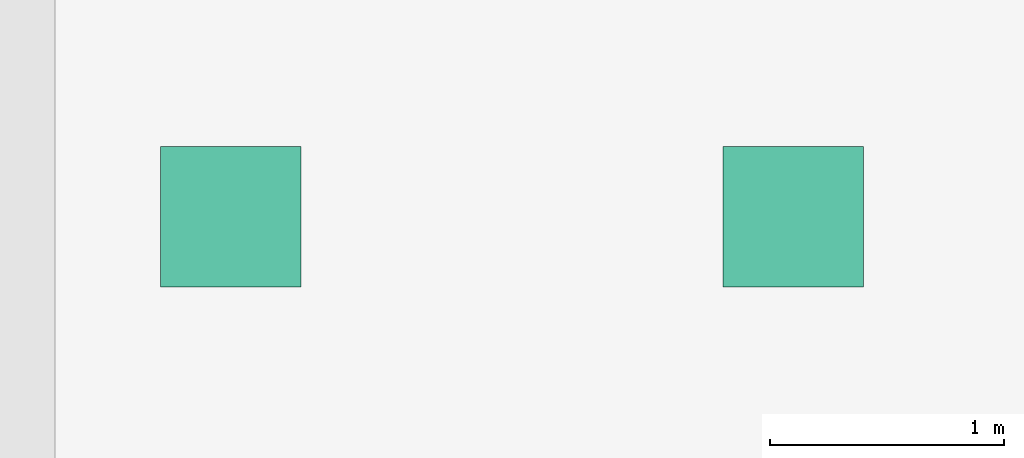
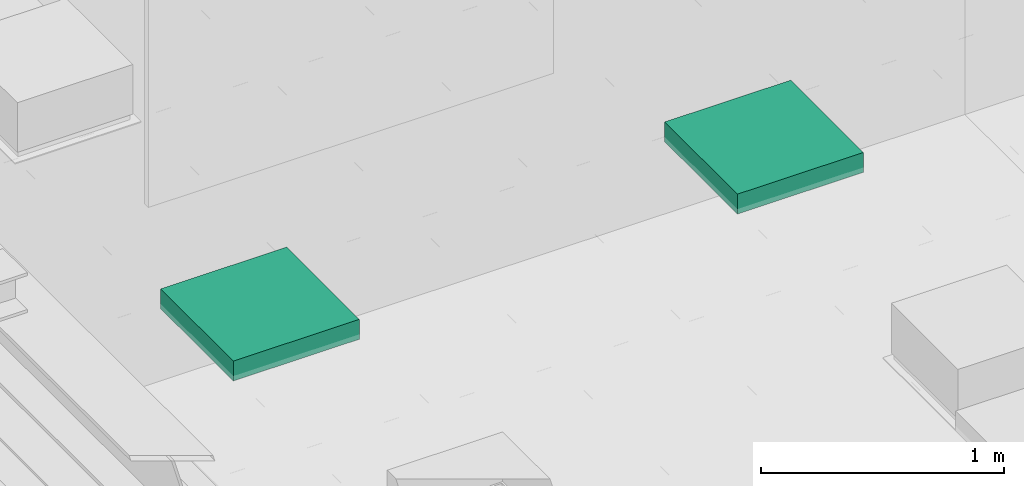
# One storey, part 224 of 347: 2 flow terminals.
"""IFC2X3 building model written with IfcOpenShell, lengths in millimetres."""

from ifc_helpers import new_model, entity, si_unit, converted_unit, derived_unit, money_unit, direction, frame, origin_with_axes, place, context, subcontext, project, spatial, open_shell, faceted_brep, surface_model, source, transform, mapped, type_object, type_shapes, element, save


model = new_model("IFC2X3")

# Units and contexts
model_context = context("Model", 3, precision=0.01, world=origin_with_axes(), true_north=direction((0.0, 1.0)))
plan_context = context("Plan", 3, precision=0.01, world=origin_with_axes(), true_north=direction((0.0, 1.0)))
body_context = subcontext(model_context, "Body", "Model", "MODEL_VIEW")
ifc_project = project(units=[si_unit("LENGTHUNIT", "METRE", prefix="MILLI"), si_unit("AREAUNIT", "SQUARE_METRE"), si_unit("VOLUMEUNIT", "CUBIC_METRE"), converted_unit("PLANEANGLEUNIT", "DEGREE", entity("IfcPlaneAngleMeasure", 0.0174532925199), si_unit("PLANEANGLEUNIT", "RADIAN"), dimensions=[0, 0, 0, 0, 0, 0, 0]), money_unit("EUR"), converted_unit("TIMEUNIT", "Year", entity("IfcTimeMeasure", 31556926.0), si_unit("TIMEUNIT", "SECOND"), dimensions=[0, 0, 1, 0, 0, 0, 0]), si_unit("MASSUNIT", "GRAM", prefix="KILO"), si_unit("THERMODYNAMICTEMPERATUREUNIT", "DEGREE_CELSIUS"), si_unit("LUMINOUSINTENSITYUNIT", "LUMEN"), si_unit("ENERGYUNIT", "JOULE", prefix="MEGA"), derived_unit("THERMALCONDUCTANCEUNIT", [(si_unit("POWERUNIT", "WATT"), 1), (si_unit("LENGTHUNIT", "METRE"), -1), (si_unit("THERMODYNAMICTEMPERATUREUNIT", "KELVIN"), -1)]), derived_unit("SPECIFICHEATCAPACITYUNIT", [(si_unit("ENERGYUNIT", "JOULE"), 1), (si_unit("MASSUNIT", "GRAM", prefix="KILO"), -1), (si_unit("THERMODYNAMICTEMPERATUREUNIT", "KELVIN"), -1)]), derived_unit("MASSDENSITYUNIT", [(si_unit("MASSUNIT", "GRAM", prefix="KILO"), 1), (si_unit("VOLUMEUNIT", "CUBIC_METRE"), -1)])], contexts=[model_context, plan_context])

# Site, building, storey
site_placement = place(None, origin_with_axes())
site = spatial("IfcSite", under=ifc_project, at=site_placement, Name="Site", CompositionType="ELEMENT")
building_placement = place(site_placement, origin_with_axes())
building = spatial("IfcBuilding", under=site, at=building_placement, Name="Naam gebouw", CompositionType="ELEMENT")
storey_placement = place(building_placement, origin_with_axes())
storey = spatial("IfcBuildingStorey", under=building, at=storey_placement, Name="begane grond", CompositionType="ELEMENT", Elevation=0.0)

# Flow terminals
lamp_type = type_object("IfcLampType", Name="TL plafond 25", PredefinedType="NOTDEFINED")
shared_shape = source(origin_with_axes(), body_context, "Body", "SurfaceModel", [
    faceted_brep([(0.0, 0.0, -100.0), (600.0, 0.0, -100.0), (600.0, 0.0, 0.0), (0.0, 0.0, 0.0), (0.0, 600.0, -100.0), (600.0, 600.0, -100.0), (40.0, 40.0, -100.0), (560.0, 40.0, -100.0), (560.0, 560.0, -100.0), (40.0, 560.0, -100.0), (600.0, 600.0, 0.0), (0.0, 600.0, 0.0), (40.0, 40.0, 0.0), (40.0, 560.0, 0.0), (560.0, 560.0, 0.0), (560.0, 40.0, 0.0)], [[[0, 1, 2, 3]], [[0, 4, 5, 1], [6, 7, 8, 9]], [[1, 5, 10, 2]], [[3, 2, 10, 11], [12, 13, 14, 15]], [[4, 0, 3, 11]], [[5, 4, 11, 10]], [[7, 6, 12, 15]], [[8, 7, 15, 14]], [[9, 8, 14, 13]], [[6, 9, 13, 12]]]),
    faceted_brep([(40.0, 40.0, -16.3333333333), (560.0, 40.0, -16.3333333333), (560.0, 40.0, 0.0), (40.0, 40.0, 0.0), (40.0, 560.0, -16.3333333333), (560.0, 560.0, -16.3333333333), (560.0, 560.0, 0.0), (40.0, 560.0, 0.0)], [[[0, 1, 2, 3]], [[0, 4, 5, 1]], [[1, 5, 6, 2]], [[3, 2, 6, 7]], [[4, 0, 3, 7]], [[5, 4, 7, 6]]]),
    surface_model("IfcShellBasedSurfaceModel", [(559.0, 41.0, -100.0), (40.0, 41.0, -100.0), (40.0, 559.0, -100.0), (559.0, 559.0, -100.0)], [open_shell([[[0, 1, 2, 3]]])]),
    faceted_brep([(40.0, 40.0, -100.0), (560.0, 40.0, -100.0), (560.0, 40.0, -60.0), (40.0, 40.0, -60.0), (40.0, 560.0, -100.0), (560.0, 560.0, -100.0), (41.0, 41.0, -100.0), (559.0, 41.0, -100.0), (559.0, 559.0, -100.0), (41.0, 559.0, -100.0), (560.0, 560.0, -60.0), (40.0, 560.0, -60.0), (41.0, 41.0, -60.0), (41.0, 559.0, -60.0), (559.0, 559.0, -60.0), (559.0, 41.0, -60.0)], [[[0, 1, 2, 3]], [[0, 4, 5, 1], [6, 7, 8, 9]], [[1, 5, 10, 2]], [[3, 2, 10, 11], [12, 13, 14, 15]], [[4, 0, 3, 11]], [[5, 4, 11, 10]], [[7, 6, 12, 15]], [[8, 7, 15, 14]], [[9, 8, 14, 13]], [[6, 9, 13, 12]]]),
    faceted_brep([(40.0, 144.0, -48.3333333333), (40.0, 149.740251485, -47.191526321), (560.0, 149.740251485, -47.191526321), (560.0, 144.0, -48.3333333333), (40.0, 138.259748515, -47.191526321), (40.0, 133.393398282, -43.9399350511), (40.0, 130.141807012, -39.0735848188), (40.0, 129.0, -33.3333333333), (40.0, 130.141807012, -27.5930818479), (40.0, 133.393398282, -22.7267316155), (40.0, 138.259748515, -19.4751403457), (40.0, 144.0, -18.3333333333), (40.0, 149.740251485, -19.4751403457), (40.0, 154.606601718, -22.7267316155), (40.0, 157.858192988, -27.5930818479), (40.0, 159.0, -33.3333333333), (40.0, 157.858192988, -39.0735848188), (40.0, 154.606601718, -43.9399350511), (40.0, 144.0, -46.3333333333), (40.0, 148.974884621, -45.343767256), (40.0, 153.192388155, -42.5257214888), (40.0, 156.010433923, -38.3082179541), (40.0, 157.0, -33.3333333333), (40.0, 156.010433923, -28.3584487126), (40.0, 153.192388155, -24.1409451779), (40.0, 148.974884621, -21.3228994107), (40.0, 144.0, -20.3333333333), (40.0, 139.025115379, -21.3228994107), (40.0, 134.807611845, -24.1409451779), (40.0, 131.989566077, -28.3584487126), (40.0, 131.0, -33.3333333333), (40.0, 131.989566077, -38.3082179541), (40.0, 134.807611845, -42.5257214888), (40.0, 139.025115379, -45.343767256), (560.0, 154.606601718, -43.9399350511), (560.0, 157.858192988, -39.0735848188), (560.0, 159.0, -33.3333333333), (560.0, 157.858192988, -27.5930818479), (560.0, 154.606601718, -22.7267316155), (560.0, 149.740251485, -19.4751403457), (560.0, 144.0, -18.3333333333), (560.0, 138.259748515, -19.4751403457), (560.0, 133.393398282, -22.7267316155), (560.0, 130.141807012, -27.5930818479), (560.0, 129.0, -33.3333333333), (560.0, 130.141807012, -39.0735848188), (560.0, 133.393398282, -43.9399350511), (560.0, 138.259748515, -47.191526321), (560.0, 144.0, -46.3333333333), (560.0, 139.025115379, -45.343767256), (560.0, 134.807611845, -42.5257214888), (560.0, 131.989566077, -38.3082179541), (560.0, 131.0, -33.3333333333), (560.0, 131.989566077, -28.3584487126), (560.0, 134.807611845, -24.1409451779), (560.0, 139.025115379, -21.3228994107), (560.0, 144.0, -20.3333333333), (560.0, 148.974884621, -21.3228994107), (560.0, 153.192388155, -24.1409451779), (560.0, 156.010433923, -28.3584487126), (560.0, 157.0, -33.3333333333), (560.0, 156.010433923, -38.3082179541), (560.0, 153.192388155, -42.5257214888), (560.0, 148.974884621, -45.343767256)], [[[0, 1, 2, 3]], [[0, 4, 5, 6, 7, 8, 9, 10, 11, 12, 13, 14, 15, 16, 17, 1], [18, 19, 20, 21, 22, 23, 24, 25, 26, 27, 28, 29, 30, 31, 32, 33]], [[1, 17, 34, 2]], [[3, 2, 34, 35, 36, 37, 38, 39, 40, 41, 42, 43, 44, 45, 46, 47], [48, 49, 50, 51, 52, 53, 54, 55, 56, 57, 58, 59, 60, 61, 62, 63]], [[4, 0, 3, 47]], [[5, 4, 47, 46]], [[6, 5, 46, 45]], [[7, 6, 45, 44]], [[8, 7, 44, 43]], [[9, 8, 43, 42]], [[10, 9, 42, 41]], [[11, 10, 41, 40]], [[12, 11, 40, 39]], [[13, 12, 39, 38]], [[14, 13, 38, 37]], [[15, 14, 37, 36]], [[16, 15, 36, 35]], [[17, 16, 35, 34]], [[19, 18, 48, 63]], [[20, 19, 63, 62]], [[21, 20, 62, 61]], [[22, 21, 61, 60]], [[23, 22, 60, 59]], [[24, 23, 59, 58]], [[25, 24, 58, 57]], [[26, 25, 57, 56]], [[27, 26, 56, 55]], [[28, 27, 55, 54]], [[29, 28, 54, 53]], [[30, 29, 53, 52]], [[31, 30, 52, 51]], [[32, 31, 51, 50]], [[33, 32, 50, 49]], [[18, 33, 49, 48]]]),
    faceted_brep([(40.0, 248.0, -48.3333333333), (40.0, 253.740251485, -47.191526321), (560.0, 253.740251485, -47.191526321), (560.0, 248.0, -48.3333333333), (40.0, 242.259748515, -47.191526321), (40.0, 237.393398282, -43.9399350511), (40.0, 234.141807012, -39.0735848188), (40.0, 233.0, -33.3333333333), (40.0, 234.141807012, -27.5930818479), (40.0, 237.393398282, -22.7267316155), (40.0, 242.259748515, -19.4751403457), (40.0, 248.0, -18.3333333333), (40.0, 253.740251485, -19.4751403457), (40.0, 258.606601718, -22.7267316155), (40.0, 261.858192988, -27.5930818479), (40.0, 263.0, -33.3333333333), (40.0, 261.858192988, -39.0735848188), (40.0, 258.606601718, -43.9399350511), (40.0, 248.0, -46.3333333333), (40.0, 252.974884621, -45.343767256), (40.0, 257.192388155, -42.5257214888), (40.0, 260.010433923, -38.3082179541), (40.0, 261.0, -33.3333333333), (40.0, 260.010433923, -28.3584487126), (40.0, 257.192388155, -24.1409451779), (40.0, 252.974884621, -21.3228994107), (40.0, 248.0, -20.3333333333), (40.0, 243.025115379, -21.3228994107), (40.0, 238.807611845, -24.1409451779), (40.0, 235.989566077, -28.3584487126), (40.0, 235.0, -33.3333333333), (40.0, 235.989566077, -38.3082179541), (40.0, 238.807611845, -42.5257214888), (40.0, 243.025115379, -45.343767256), (560.0, 258.606601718, -43.9399350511), (560.0, 261.858192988, -39.0735848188), (560.0, 263.0, -33.3333333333), (560.0, 261.858192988, -27.5930818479), (560.0, 258.606601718, -22.7267316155), (560.0, 253.740251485, -19.4751403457), (560.0, 248.0, -18.3333333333), (560.0, 242.259748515, -19.4751403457), (560.0, 237.393398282, -22.7267316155), (560.0, 234.141807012, -27.5930818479), (560.0, 233.0, -33.3333333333), (560.0, 234.141807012, -39.0735848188), (560.0, 237.393398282, -43.9399350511), (560.0, 242.259748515, -47.191526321), (560.0, 248.0, -46.3333333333), (560.0, 243.025115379, -45.343767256), (560.0, 238.807611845, -42.5257214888), (560.0, 235.989566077, -38.3082179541), (560.0, 235.0, -33.3333333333), (560.0, 235.989566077, -28.3584487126), (560.0, 238.807611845, -24.1409451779), (560.0, 243.025115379, -21.3228994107), (560.0, 248.0, -20.3333333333), (560.0, 252.974884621, -21.3228994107), (560.0, 257.192388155, -24.1409451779), (560.0, 260.010433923, -28.3584487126), (560.0, 261.0, -33.3333333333), (560.0, 260.010433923, -38.3082179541), (560.0, 257.192388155, -42.5257214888), (560.0, 252.974884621, -45.343767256)], [[[0, 1, 2, 3]], [[0, 4, 5, 6, 7, 8, 9, 10, 11, 12, 13, 14, 15, 16, 17, 1], [18, 19, 20, 21, 22, 23, 24, 25, 26, 27, 28, 29, 30, 31, 32, 33]], [[1, 17, 34, 2]], [[3, 2, 34, 35, 36, 37, 38, 39, 40, 41, 42, 43, 44, 45, 46, 47], [48, 49, 50, 51, 52, 53, 54, 55, 56, 57, 58, 59, 60, 61, 62, 63]], [[4, 0, 3, 47]], [[5, 4, 47, 46]], [[6, 5, 46, 45]], [[7, 6, 45, 44]], [[8, 7, 44, 43]], [[9, 8, 43, 42]], [[10, 9, 42, 41]], [[11, 10, 41, 40]], [[12, 11, 40, 39]], [[13, 12, 39, 38]], [[14, 13, 38, 37]], [[15, 14, 37, 36]], [[16, 15, 36, 35]], [[17, 16, 35, 34]], [[19, 18, 48, 63]], [[20, 19, 63, 62]], [[21, 20, 62, 61]], [[22, 21, 61, 60]], [[23, 22, 60, 59]], [[24, 23, 59, 58]], [[25, 24, 58, 57]], [[26, 25, 57, 56]], [[27, 26, 56, 55]], [[28, 27, 55, 54]], [[29, 28, 54, 53]], [[30, 29, 53, 52]], [[31, 30, 52, 51]], [[32, 31, 51, 50]], [[33, 32, 50, 49]], [[18, 33, 49, 48]]]),
    faceted_brep([(40.0, 352.0, -48.3333333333), (40.0, 357.740251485, -47.191526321), (560.0, 357.740251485, -47.191526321), (560.0, 352.0, -48.3333333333), (40.0, 346.259748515, -47.191526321), (40.0, 341.393398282, -43.9399350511), (40.0, 338.141807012, -39.0735848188), (40.0, 337.0, -33.3333333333), (40.0, 338.141807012, -27.5930818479), (40.0, 341.393398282, -22.7267316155), (40.0, 346.259748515, -19.4751403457), (40.0, 352.0, -18.3333333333), (40.0, 357.740251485, -19.4751403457), (40.0, 362.606601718, -22.7267316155), (40.0, 365.858192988, -27.5930818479), (40.0, 367.0, -33.3333333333), (40.0, 365.858192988, -39.0735848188), (40.0, 362.606601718, -43.9399350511), (40.0, 352.0, -46.3333333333), (40.0, 356.974884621, -45.343767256), (40.0, 361.192388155, -42.5257214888), (40.0, 364.010433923, -38.3082179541), (40.0, 365.0, -33.3333333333), (40.0, 364.010433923, -28.3584487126), (40.0, 361.192388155, -24.1409451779), (40.0, 356.974884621, -21.3228994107), (40.0, 352.0, -20.3333333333), (40.0, 347.025115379, -21.3228994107), (40.0, 342.807611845, -24.1409451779), (40.0, 339.989566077, -28.3584487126), (40.0, 339.0, -33.3333333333), (40.0, 339.989566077, -38.3082179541), (40.0, 342.807611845, -42.5257214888), (40.0, 347.025115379, -45.343767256), (560.0, 362.606601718, -43.9399350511), (560.0, 365.858192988, -39.0735848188), (560.0, 367.0, -33.3333333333), (560.0, 365.858192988, -27.5930818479), (560.0, 362.606601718, -22.7267316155), (560.0, 357.740251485, -19.4751403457), (560.0, 352.0, -18.3333333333), (560.0, 346.259748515, -19.4751403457), (560.0, 341.393398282, -22.7267316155), (560.0, 338.141807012, -27.5930818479), (560.0, 337.0, -33.3333333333), (560.0, 338.141807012, -39.0735848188), (560.0, 341.393398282, -43.9399350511), (560.0, 346.259748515, -47.191526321), (560.0, 352.0, -46.3333333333), (560.0, 347.025115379, -45.343767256), (560.0, 342.807611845, -42.5257214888), (560.0, 339.989566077, -38.3082179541), (560.0, 339.0, -33.3333333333), (560.0, 339.989566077, -28.3584487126), (560.0, 342.807611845, -24.1409451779), (560.0, 347.025115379, -21.3228994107), (560.0, 352.0, -20.3333333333), (560.0, 356.974884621, -21.3228994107), (560.0, 361.192388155, -24.1409451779), (560.0, 364.010433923, -28.3584487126), (560.0, 365.0, -33.3333333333), (560.0, 364.010433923, -38.3082179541), (560.0, 361.192388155, -42.5257214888), (560.0, 356.974884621, -45.343767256)], [[[0, 1, 2, 3]], [[0, 4, 5, 6, 7, 8, 9, 10, 11, 12, 13, 14, 15, 16, 17, 1], [18, 19, 20, 21, 22, 23, 24, 25, 26, 27, 28, 29, 30, 31, 32, 33]], [[1, 17, 34, 2]], [[3, 2, 34, 35, 36, 37, 38, 39, 40, 41, 42, 43, 44, 45, 46, 47], [48, 49, 50, 51, 52, 53, 54, 55, 56, 57, 58, 59, 60, 61, 62, 63]], [[4, 0, 3, 47]], [[5, 4, 47, 46]], [[6, 5, 46, 45]], [[7, 6, 45, 44]], [[8, 7, 44, 43]], [[9, 8, 43, 42]], [[10, 9, 42, 41]], [[11, 10, 41, 40]], [[12, 11, 40, 39]], [[13, 12, 39, 38]], [[14, 13, 38, 37]], [[15, 14, 37, 36]], [[16, 15, 36, 35]], [[17, 16, 35, 34]], [[19, 18, 48, 63]], [[20, 19, 63, 62]], [[21, 20, 62, 61]], [[22, 21, 61, 60]], [[23, 22, 60, 59]], [[24, 23, 59, 58]], [[25, 24, 58, 57]], [[26, 25, 57, 56]], [[27, 26, 56, 55]], [[28, 27, 55, 54]], [[29, 28, 54, 53]], [[30, 29, 53, 52]], [[31, 30, 52, 51]], [[32, 31, 51, 50]], [[33, 32, 50, 49]], [[18, 33, 49, 48]]]),
    faceted_brep([(40.0, 456.0, -48.3333333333), (40.0, 461.740251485, -47.191526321), (560.0, 461.740251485, -47.191526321), (560.0, 456.0, -48.3333333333), (40.0, 450.259748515, -47.191526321), (40.0, 445.393398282, -43.9399350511), (40.0, 442.141807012, -39.0735848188), (40.0, 441.0, -33.3333333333), (40.0, 442.141807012, -27.5930818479), (40.0, 445.393398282, -22.7267316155), (40.0, 450.259748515, -19.4751403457), (40.0, 456.0, -18.3333333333), (40.0, 461.740251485, -19.4751403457), (40.0, 466.606601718, -22.7267316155), (40.0, 469.858192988, -27.5930818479), (40.0, 471.0, -33.3333333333), (40.0, 469.858192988, -39.0735848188), (40.0, 466.606601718, -43.9399350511), (40.0, 456.0, -46.3333333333), (40.0, 460.974884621, -45.343767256), (40.0, 465.192388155, -42.5257214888), (40.0, 468.010433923, -38.3082179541), (40.0, 469.0, -33.3333333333), (40.0, 468.010433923, -28.3584487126), (40.0, 465.192388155, -24.1409451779), (40.0, 460.974884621, -21.3228994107), (40.0, 456.0, -20.3333333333), (40.0, 451.025115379, -21.3228994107), (40.0, 446.807611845, -24.1409451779), (40.0, 443.989566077, -28.3584487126), (40.0, 443.0, -33.3333333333), (40.0, 443.989566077, -38.3082179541), (40.0, 446.807611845, -42.5257214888), (40.0, 451.025115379, -45.343767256), (560.0, 466.606601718, -43.9399350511), (560.0, 469.858192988, -39.0735848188), (560.0, 471.0, -33.3333333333), (560.0, 469.858192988, -27.5930818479), (560.0, 466.606601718, -22.7267316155), (560.0, 461.740251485, -19.4751403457), (560.0, 456.0, -18.3333333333), (560.0, 450.259748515, -19.4751403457), (560.0, 445.393398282, -22.7267316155), (560.0, 442.141807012, -27.5930818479), (560.0, 441.0, -33.3333333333), (560.0, 442.141807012, -39.0735848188), (560.0, 445.393398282, -43.9399350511), (560.0, 450.259748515, -47.191526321), (560.0, 456.0, -46.3333333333), (560.0, 451.025115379, -45.343767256), (560.0, 446.807611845, -42.5257214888), (560.0, 443.989566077, -38.3082179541), (560.0, 443.0, -33.3333333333), (560.0, 443.989566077, -28.3584487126), (560.0, 446.807611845, -24.1409451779), (560.0, 451.025115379, -21.3228994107), (560.0, 456.0, -20.3333333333), (560.0, 460.974884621, -21.3228994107), (560.0, 465.192388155, -24.1409451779), (560.0, 468.010433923, -28.3584487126), (560.0, 469.0, -33.3333333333), (560.0, 468.010433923, -38.3082179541), (560.0, 465.192388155, -42.5257214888), (560.0, 460.974884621, -45.343767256)], [[[0, 1, 2, 3]], [[0, 4, 5, 6, 7, 8, 9, 10, 11, 12, 13, 14, 15, 16, 17, 1], [18, 19, 20, 21, 22, 23, 24, 25, 26, 27, 28, 29, 30, 31, 32, 33]], [[1, 17, 34, 2]], [[3, 2, 34, 35, 36, 37, 38, 39, 40, 41, 42, 43, 44, 45, 46, 47], [48, 49, 50, 51, 52, 53, 54, 55, 56, 57, 58, 59, 60, 61, 62, 63]], [[4, 0, 3, 47]], [[5, 4, 47, 46]], [[6, 5, 46, 45]], [[7, 6, 45, 44]], [[8, 7, 44, 43]], [[9, 8, 43, 42]], [[10, 9, 42, 41]], [[11, 10, 41, 40]], [[12, 11, 40, 39]], [[13, 12, 39, 38]], [[14, 13, 38, 37]], [[15, 14, 37, 36]], [[16, 15, 36, 35]], [[17, 16, 35, 34]], [[19, 18, 48, 63]], [[20, 19, 63, 62]], [[21, 20, 62, 61]], [[22, 21, 61, 60]], [[23, 22, 60, 59]], [[24, 23, 59, 58]], [[25, 24, 58, 57]], [[26, 25, 57, 56]], [[27, 26, 56, 55]], [[28, 27, 55, 54]], [[29, 28, 54, 53]], [[30, 29, 53, 52]], [[31, 30, 52, 51]], [[32, 31, 51, 50]], [[33, 32, 50, 49]], [[18, 33, 49, 48]]]),
])
type_shapes(lamp_type, [shared_shape])
for number, where, z_axis, x_axis, name in (
    (1, (25325.0, 31737.5, 3295.0), (0.0, 0.0, 1.0), (1.0, 0.0, 0.0), "63_Lamp-x"),
    (2, (27725.0, 31737.5, 3295.0), (0.0, 0.0, 1.0), (1.0, 0.0, 0.0), "63_Lamp-x"),
):
    element("IfcFlowTerminal", number, at=place(storey_placement, frame(where, z_axis=z_axis, x_axis=x_axis)), inside=storey, type_object=lamp_type, Name=name, ObjectType="Lamp", context=body_context, shape_type="MappedRepresentation", body=[
        mapped(shared_shape, transform((0.0, 0.0, 0.0))),
    ])

save(model, "model.ifc")
